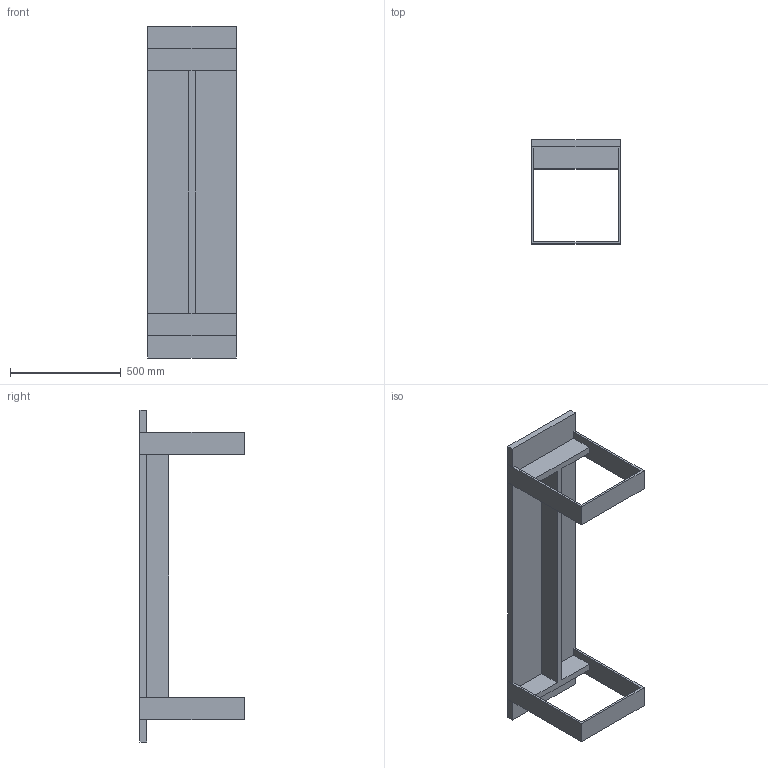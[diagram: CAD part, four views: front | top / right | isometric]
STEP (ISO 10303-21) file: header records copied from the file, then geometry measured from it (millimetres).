
FILE_DESCRIPTION (( 'STEP AP203' ), '1' );
FILE_NAME ('Haag bench 1500x400.STEP', '2019-04-02T14:06:01', ( '' ), ( '' ), 'SwSTEP 2.0', 'SolidWorks 2019', '' );
FILE_SCHEMA (( 'CONFIG_CONTROL_DESIGN' ));
Length unit declared in the file: millimetre
Products named in the file (1): Haag bench 1500x400
Bounding box: 400 x 470 x 1500 mm (x, y, z)
Volume: 26310000 mm3; surface area: 2575400 mm2
Topology: 4 solids, 4 shells, 56 faces, 144 edges, 96 vertices
Faces by surface type: plane 56
Entity records: 1747 total; most frequent: CARTESIAN_POINT 297, ORIENTED_EDGE 288, DIRECTION 258, VECTOR 144, EDGE_CURVE 144, LINE 144, VERTEX_POINT 96, EDGE_LOOP 60
